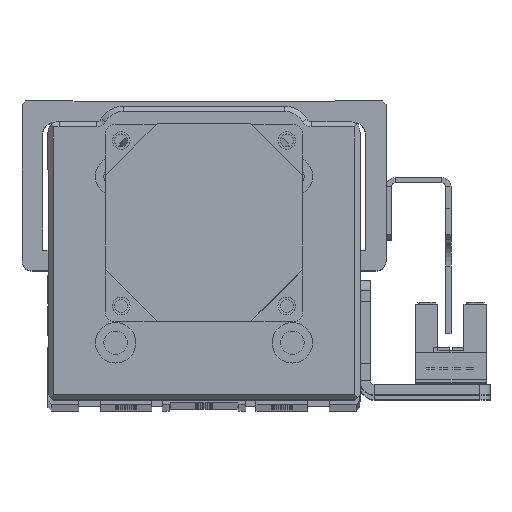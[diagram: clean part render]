
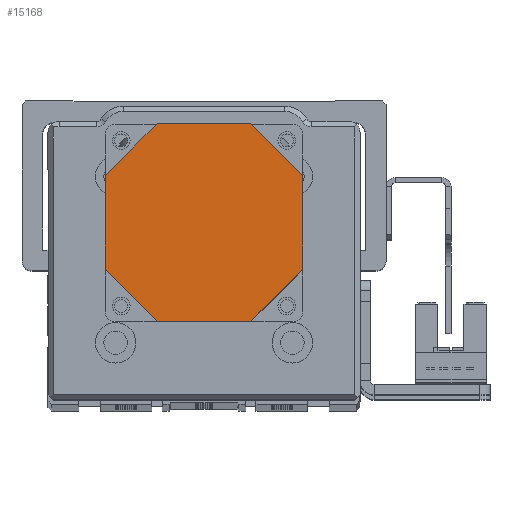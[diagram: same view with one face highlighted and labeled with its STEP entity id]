
A CAD part, top view. The second image highlights one B-rep face of the part: STEP entity #15168.
In plain terms, the highlighted planar face has unit normal (0, 0, 1) as drawn and (0, 0, -1) by its records, which use the part's own axes.
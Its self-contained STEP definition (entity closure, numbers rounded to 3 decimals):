
#2483 = EDGE_LOOP ( 'NONE', ( #9652, #9674, #9665, #9638, #9672, #9619, #9616, #9651 ) ) ;
#4333 = CARTESIAN_POINT ( 'NONE',  ( -9., 19., -84. ) ) ;
#4346 = CARTESIAN_POINT ( 'NONE',  ( 19., 9., -84. ) ) ;
#4352 = CARTESIAN_POINT ( 'NONE',  ( -19., 9., -84. ) ) ;
#4368 = CARTESIAN_POINT ( 'NONE',  ( 9., -19., -84. ) ) ;
#4393 = CARTESIAN_POINT ( 'NONE',  ( -9., -19., -84. ) ) ;
#4411 = CARTESIAN_POINT ( 'NONE',  ( -19., -9., -84. ) ) ;
#4416 = CARTESIAN_POINT ( 'NONE',  ( 9., 19., -84. ) ) ;
#4465 = CARTESIAN_POINT ( 'NONE',  ( 19., -9., -84. ) ) ;
#7724 = FACE_OUTER_BOUND ( 'NONE', #2483, .T. ) ;
#8832 = PLANE ( 'NONE',  #18402 ) ;
#8835 = DIRECTION ( 'NONE',  ( 1., 0., 0. ) ) ;
#8859 = DIRECTION ( 'NONE',  ( 0., 0., 1. ) ) ;
#8877 = CARTESIAN_POINT ( 'NONE',  ( 0., 0., -84. ) ) ;
#9616 = ORIENTED_EDGE ( 'NONE', *, *, #18261, .T. ) ;
#9619 = ORIENTED_EDGE ( 'NONE', *, *, #18174, .T. ) ;
#9638 = ORIENTED_EDGE ( 'NONE', *, *, #18109, .T. ) ;
#9651 = ORIENTED_EDGE ( 'NONE', *, *, #18104, .T. ) ;
#9652 = ORIENTED_EDGE ( 'NONE', *, *, #18195, .T. ) ;
#9665 = ORIENTED_EDGE ( 'NONE', *, *, #18280, .T. ) ;
#9672 = ORIENTED_EDGE ( 'NONE', *, *, #18247, .T. ) ;
#9674 = ORIENTED_EDGE ( 'NONE', *, *, #18264, .T. ) ;
#15168 = ADVANCED_FACE ( 'NONE', ( #7724 ), #8832, .F. ) ;
#18104 = EDGE_CURVE ( 'NONE', #25352, #25368, #24683, .T. ) ;
#18109 = EDGE_CURVE ( 'NONE', #25347, #25435, #24701, .T. ) ;
#18174 = EDGE_CURVE ( 'NONE', #25357, #25452, #24726, .T. ) ;
#18195 = EDGE_CURVE ( 'NONE', #25368, #25394, #24743, .T. ) ;
#18247 = EDGE_CURVE ( 'NONE', #25435, #25357, #24823, .T. ) ;
#18261 = EDGE_CURVE ( 'NONE', #25452, #25352, #24845, .T. ) ;
#18264 = EDGE_CURVE ( 'NONE', #25394, #25373, #24832, .T. ) ;
#18280 = EDGE_CURVE ( 'NONE', #25373, #25347, #24903, .T. ) ;
#18402 = AXIS2_PLACEMENT_3D ( 'NONE', #8877, #8859, #8835 ) ;
#21801 = CARTESIAN_POINT ( 'NONE',  ( 9., 19., -84. ) ) ;
#21843 = DIRECTION ( 'NONE',  ( 1., 0., 0. ) ) ;
#21863 = DIRECTION ( 'NONE',  ( -1., 0., 0. ) ) ;
#21881 = CARTESIAN_POINT ( 'NONE',  ( 9., -19., -84. ) ) ;
#22066 = CARTESIAN_POINT ( 'NONE',  ( 19., 9., -84. ) ) ;
#22080 = DIRECTION ( 'NONE',  ( 0., -1., 0. ) ) ;
#22088 = CARTESIAN_POINT ( 'NONE',  ( -9., -19., -84. ) ) ;
#22109 = DIRECTION ( 'NONE',  ( -0.707, 0.707, 0. ) ) ;
#22280 = DIRECTION ( 'NONE',  ( -0.707, -0.707, 0. ) ) ;
#22293 = DIRECTION ( 'NONE',  ( 0.707, -0.707, 0. ) ) ;
#22338 = CARTESIAN_POINT ( 'NONE',  ( 19., 9., -84. ) ) ;
#22349 = CARTESIAN_POINT ( 'NONE',  ( 19., -9., -84. ) ) ;
#22360 = CARTESIAN_POINT ( 'NONE',  ( -19., 9., -84. ) ) ;
#22362 = DIRECTION ( 'NONE',  ( 0., 1., 0. ) ) ;
#22408 = DIRECTION ( 'NONE',  ( 0.707, 0.707, 0. ) ) ;
#22432 = CARTESIAN_POINT ( 'NONE',  ( -9., 19., -84. ) ) ;
#24680 = VECTOR ( 'NONE', #21843, 1000. ) ;
#24683 = LINE ( 'NONE', #21881, #24691 ) ;
#24691 = VECTOR ( 'NONE', #21863, 1000. ) ;
#24701 = LINE ( 'NONE', #21801, #24680 ) ;
#24722 = VECTOR ( 'NONE', #22080, 1000. ) ;
#24726 = LINE ( 'NONE', #22066, #24722 ) ;
#24741 = VECTOR ( 'NONE', #22109, 1000. ) ;
#24743 = LINE ( 'NONE', #22088, #24741 ) ;
#24791 = VECTOR ( 'NONE', #22293, 1000. ) ;
#24796 = VECTOR ( 'NONE', #22280, 1000. ) ;
#24806 = VECTOR ( 'NONE', #22362, 1000. ) ;
#24823 = LINE ( 'NONE', #22338, #24791 ) ;
#24832 = LINE ( 'NONE', #22360, #24806 ) ;
#24845 = LINE ( 'NONE', #22349, #24796 ) ;
#24883 = VECTOR ( 'NONE', #22408, 1000. ) ;
#24903 = LINE ( 'NONE', #22432, #24883 ) ;
#25347 = VERTEX_POINT ( 'NONE', #4333 ) ;
#25352 = VERTEX_POINT ( 'NONE', #4368 ) ;
#25357 = VERTEX_POINT ( 'NONE', #4346 ) ;
#25368 = VERTEX_POINT ( 'NONE', #4393 ) ;
#25373 = VERTEX_POINT ( 'NONE', #4352 ) ;
#25394 = VERTEX_POINT ( 'NONE', #4411 ) ;
#25435 = VERTEX_POINT ( 'NONE', #4416 ) ;
#25452 = VERTEX_POINT ( 'NONE', #4465 ) ;
